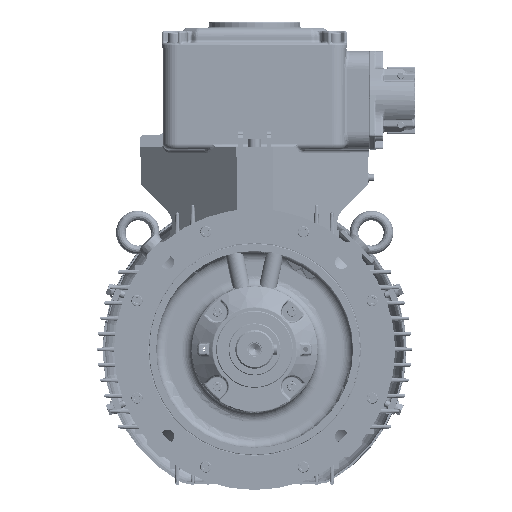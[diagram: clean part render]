
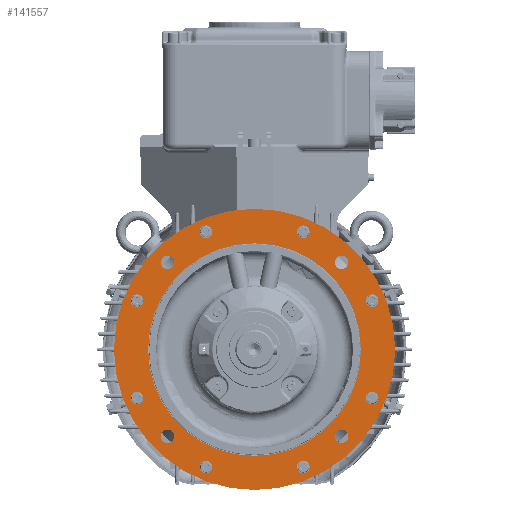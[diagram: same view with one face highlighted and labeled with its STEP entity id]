
A CAD part, left-side view. The second image highlights one B-rep face of the part: STEP entity #141557.
In plain terms, the highlighted planar face has unit normal (-1, 0, 0).
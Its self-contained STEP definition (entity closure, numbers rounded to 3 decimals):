
#26256=PLANE('',#151107);
#43754=ORIENTED_EDGE('',*,*,#74655,.F.);
#43755=ORIENTED_EDGE('',*,*,#74653,.F.);
#43756=ORIENTED_EDGE('',*,*,#74648,.T.);
#43757=ORIENTED_EDGE('',*,*,#74644,.T.);
#43758=ORIENTED_EDGE('',*,*,#74640,.T.);
#43759=ORIENTED_EDGE('',*,*,#74636,.T.);
#43760=ORIENTED_EDGE('',*,*,#74632,.T.);
#43761=ORIENTED_EDGE('',*,*,#74628,.T.);
#43762=ORIENTED_EDGE('',*,*,#74624,.T.);
#43763=ORIENTED_EDGE('',*,*,#74620,.T.);
#43764=ORIENTED_EDGE('',*,*,#74618,.F.);
#43765=ORIENTED_EDGE('',*,*,#74616,.F.);
#43766=ORIENTED_EDGE('',*,*,#74614,.F.);
#43767=ORIENTED_EDGE('',*,*,#74612,.F.);
#74612=EDGE_CURVE('',#90941,#90941,#101376,.T.);
#74614=EDGE_CURVE('',#90943,#90943,#101378,.T.);
#74616=EDGE_CURVE('',#90945,#90945,#101380,.T.);
#74618=EDGE_CURVE('',#90947,#90947,#101382,.T.);
#74620=EDGE_CURVE('',#90949,#90949,#101384,.T.);
#74624=EDGE_CURVE('',#90953,#90953,#101388,.T.);
#74628=EDGE_CURVE('',#90957,#90957,#101392,.T.);
#74632=EDGE_CURVE('',#90961,#90961,#101396,.T.);
#74636=EDGE_CURVE('',#90965,#90965,#101400,.T.);
#74640=EDGE_CURVE('',#90969,#90969,#101404,.T.);
#74644=EDGE_CURVE('',#90973,#90973,#101408,.T.);
#74648=EDGE_CURVE('',#90977,#90977,#101412,.T.);
#74653=EDGE_CURVE('',#90982,#90982,#101417,.T.);
#74655=EDGE_CURVE('',#90984,#90984,#101419,.T.);
#90941=VERTEX_POINT('',#221288);
#90943=VERTEX_POINT('',#221293);
#90945=VERTEX_POINT('',#221298);
#90947=VERTEX_POINT('',#221303);
#90949=VERTEX_POINT('',#221308);
#90953=VERTEX_POINT('',#221319);
#90957=VERTEX_POINT('',#221330);
#90961=VERTEX_POINT('',#221341);
#90965=VERTEX_POINT('',#221352);
#90969=VERTEX_POINT('',#221363);
#90973=VERTEX_POINT('',#221374);
#90977=VERTEX_POINT('',#221385);
#90982=VERTEX_POINT('',#221399);
#90984=VERTEX_POINT('',#221405);
#101376=CIRCLE('',#151034,9.5);
#101378=CIRCLE('',#151037,9.5);
#101380=CIRCLE('',#151040,9.5);
#101382=CIRCLE('',#151043,9.5);
#101384=CIRCLE('',#151046,9.);
#101388=CIRCLE('',#151053,9.);
#101392=CIRCLE('',#151060,9.);
#101396=CIRCLE('',#151067,9.);
#101400=CIRCLE('',#151074,9.);
#101404=CIRCLE('',#151081,9.);
#101408=CIRCLE('',#151088,9.);
#101412=CIRCLE('',#151095,9.);
#101417=CIRCLE('',#151104,151.4);
#101419=CIRCLE('',#151108,199.994);
#106727=EDGE_LOOP('',(#43754));
#106728=EDGE_LOOP('',(#43755));
#106729=EDGE_LOOP('',(#43756));
#106730=EDGE_LOOP('',(#43757));
#106731=EDGE_LOOP('',(#43758));
#106732=EDGE_LOOP('',(#43759));
#106733=EDGE_LOOP('',(#43760));
#106734=EDGE_LOOP('',(#43761));
#106735=EDGE_LOOP('',(#43762));
#106736=EDGE_LOOP('',(#43763));
#106737=EDGE_LOOP('',(#43764));
#106738=EDGE_LOOP('',(#43765));
#106739=EDGE_LOOP('',(#43766));
#106740=EDGE_LOOP('',(#43767));
#116242=FACE_BOUND('',#106727,.T.);
#116243=FACE_BOUND('',#106728,.T.);
#116244=FACE_BOUND('',#106729,.T.);
#116245=FACE_BOUND('',#106730,.T.);
#116246=FACE_BOUND('',#106731,.T.);
#116247=FACE_BOUND('',#106732,.T.);
#116248=FACE_BOUND('',#106733,.T.);
#116249=FACE_BOUND('',#106734,.T.);
#116250=FACE_BOUND('',#106735,.T.);
#116251=FACE_BOUND('',#106736,.T.);
#116252=FACE_BOUND('',#106737,.T.);
#116253=FACE_BOUND('',#106738,.T.);
#116254=FACE_BOUND('',#106739,.T.);
#116255=FACE_BOUND('',#106740,.T.);
#141557=ADVANCED_FACE('',(#116242,#116243,#116244,#116245,#116246,#116247,
#116248,#116249,#116250,#116251,#116252,#116253,#116254,#116255),#26256,
 .F.);
#151034=AXIS2_PLACEMENT_3D('',#221287,#169581,#169582);
#151037=AXIS2_PLACEMENT_3D('',#221292,#169587,#169588);
#151040=AXIS2_PLACEMENT_3D('',#221297,#169593,#169594);
#151043=AXIS2_PLACEMENT_3D('',#221302,#169599,#169600);
#151046=AXIS2_PLACEMENT_3D('',#221307,#169605,#169606);
#151053=AXIS2_PLACEMENT_3D('',#221318,#169619,#169620);
#151060=AXIS2_PLACEMENT_3D('',#221329,#169633,#169634);
#151067=AXIS2_PLACEMENT_3D('',#221340,#169647,#169648);
#151074=AXIS2_PLACEMENT_3D('',#221351,#169661,#169662);
#151081=AXIS2_PLACEMENT_3D('',#221362,#169675,#169676);
#151088=AXIS2_PLACEMENT_3D('',#221373,#169689,#169690);
#151095=AXIS2_PLACEMENT_3D('',#221384,#169703,#169704);
#151104=AXIS2_PLACEMENT_3D('',#221398,#169721,#169722);
#151107=AXIS2_PLACEMENT_3D('',#221403,#169727,#169728);
#151108=AXIS2_PLACEMENT_3D('',#221404,#169729,#169730);
#169581=DIRECTION('',(-1.,0.,0.));
#169582=DIRECTION('',(0.,-1.,0.));
#169587=DIRECTION('',(-1.,0.,0.));
#169588=DIRECTION('',(0.,-1.,0.));
#169593=DIRECTION('',(-1.,0.,0.));
#169594=DIRECTION('',(0.,-1.,0.));
#169599=DIRECTION('',(-1.,0.,0.));
#169600=DIRECTION('',(0.,-1.,0.));
#169605=DIRECTION('',(1.,0.,0.));
#169606=DIRECTION('',(0.,0.,-1.));
#169619=DIRECTION('',(1.,0.,0.));
#169620=DIRECTION('',(0.,0.,-1.));
#169633=DIRECTION('',(1.,0.,0.));
#169634=DIRECTION('',(0.,0.,-1.));
#169647=DIRECTION('',(1.,0.,0.));
#169648=DIRECTION('',(0.,0.,-1.));
#169661=DIRECTION('',(1.,0.,0.));
#169662=DIRECTION('',(0.,0.,-1.));
#169675=DIRECTION('',(1.,0.,0.));
#169676=DIRECTION('',(0.,0.,-1.));
#169689=DIRECTION('',(1.,0.,0.));
#169690=DIRECTION('',(0.,0.,-1.));
#169703=DIRECTION('',(1.,0.,0.));
#169704=DIRECTION('',(0.,0.,-1.));
#169721=DIRECTION('',(-1.,0.,0.));
#169722=DIRECTION('',(0.,0.,-1.));
#169727=DIRECTION('',(1.,0.,0.));
#169728=DIRECTION('',(0.,0.,1.));
#169729=DIRECTION('',(1.,0.,0.));
#169730=DIRECTION('',(0.,0.,1.));
#221287=CARTESIAN_POINT('',(-77.504,123.744,-123.744));
#221288=CARTESIAN_POINT('',(-77.504,114.244,-123.744));
#221292=CARTESIAN_POINT('',(-77.504,-123.761,-123.726));
#221293=CARTESIAN_POINT('',(-77.504,-133.261,-123.726));
#221297=CARTESIAN_POINT('',(-77.504,-123.744,123.744));
#221298=CARTESIAN_POINT('',(-77.504,-133.244,123.744));
#221302=CARTESIAN_POINT('',(-77.504,123.744,123.744));
#221303=CARTESIAN_POINT('',(-77.504,114.244,123.744));
#221307=CARTESIAN_POINT('',(-77.504,69.266,167.222));
#221308=CARTESIAN_POINT('',(-77.504,69.266,158.222));
#221318=CARTESIAN_POINT('',(-77.504,167.222,69.266));
#221319=CARTESIAN_POINT('',(-77.504,167.222,60.266));
#221329=CARTESIAN_POINT('',(-77.504,167.222,-69.266));
#221330=CARTESIAN_POINT('',(-77.504,167.222,-78.266));
#221340=CARTESIAN_POINT('',(-77.504,69.266,-167.222));
#221341=CARTESIAN_POINT('',(-77.504,69.266,-176.222));
#221351=CARTESIAN_POINT('',(-77.504,-69.266,-167.222));
#221352=CARTESIAN_POINT('',(-77.504,-69.266,-176.222));
#221362=CARTESIAN_POINT('',(-77.504,-167.222,-69.266));
#221363=CARTESIAN_POINT('',(-77.504,-167.222,-78.266));
#221373=CARTESIAN_POINT('',(-77.504,-167.222,69.266));
#221374=CARTESIAN_POINT('',(-77.504,-167.222,60.266));
#221384=CARTESIAN_POINT('',(-77.504,-69.266,167.222));
#221385=CARTESIAN_POINT('',(-77.504,-69.266,158.222));
#221398=CARTESIAN_POINT('',(-77.504,0.,0.));
#221399=CARTESIAN_POINT('',(-77.504,0.,-151.4));
#221403=CARTESIAN_POINT('',(-77.504,0.,-209.218));
#221404=CARTESIAN_POINT('',(-77.504,0.,0.));
#221405=CARTESIAN_POINT('',(-77.504,0.,199.994));
